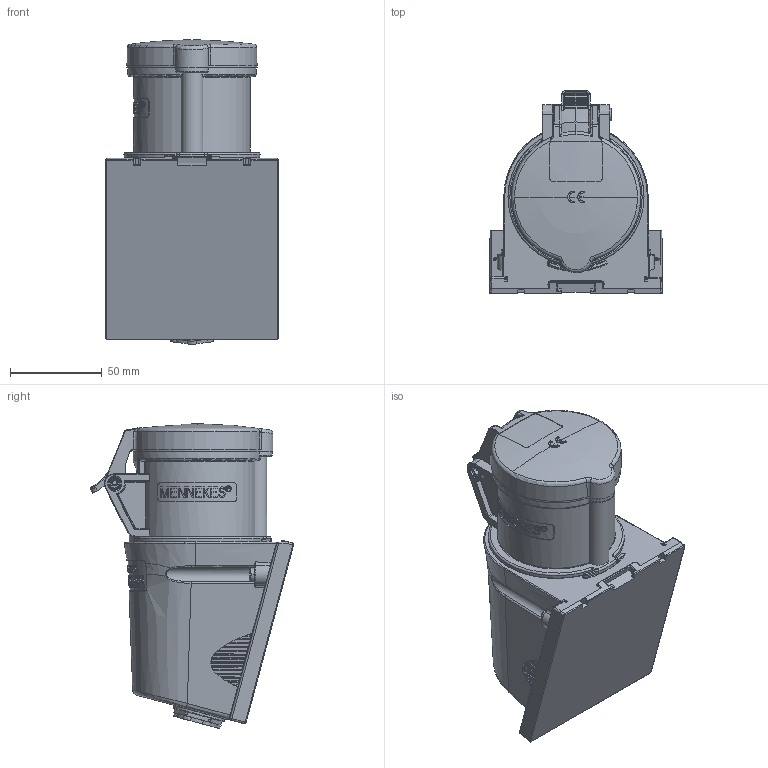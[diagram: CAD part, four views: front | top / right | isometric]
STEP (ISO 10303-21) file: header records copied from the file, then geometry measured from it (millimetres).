
FILE_DESCRIPTION((''),'2;1');
FILE_NAME('1113722_ASM_SW0001','2017-11-13T',('gisse'),('MENNEKES'),'PRO/ENGINEER BY PARAMETRIC TECHNOLOGY CORPORATION, 2015440','PRO/ENGINEER BY PARAMETRIC TECHNOLOGY CORPORATION, 2015440','');
FILE_SCHEMA(('AUTOMOTIVE_DESIGN { 1 0 10303 214 1 1 1 1 }'));
Length unit declared in the file: millimetre
Products named in the file (1): 1113722_ASM_SW0001
Bounding box: 93.98 x 111.06 x 166.39 mm (x, y, z)
Volume: 710962.7 mm3; surface area: 65501.7 mm2
Topology: 1 solids, 1 shells, 1835 faces, 4850 edges, 3062 vertices
Faces by surface type: plane 734, cylinder 358, extrusion 282, bspline 253, cone 94, torus 86, sphere 28
Entity records: 91441 total; most frequent: CARTESIAN_POINT 29844, ORIENTED_EDGE 9682, DIRECTION 6721, EDGE_CURVE 4841, FILL_AREA_STYLE_COLOUR 3121, FILL_AREA_STYLE 3121, SURFACE_STYLE_FILL_AREA 3121, SURFACE_SIDE_STYLE 3121
